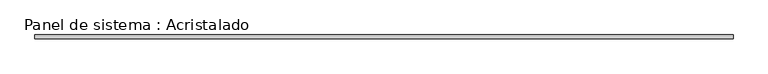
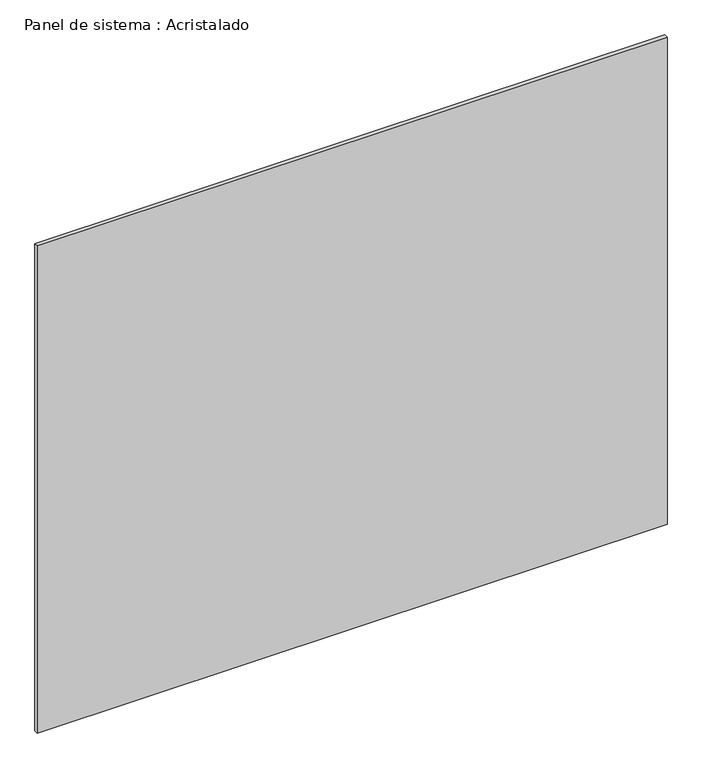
"""IFC4 building model written with IfcOpenShell, lengths in millimetres: plate geometry, Panel de sistema : Acristalado."""

from ifc_helpers import new_model, si_unit, origin, origin_with_axes, place, context, project, spatial, polyline, outline, extrude, source, transform, mapped, element, save


def panel_de_sistema_acristalado_2d9a16bb(model_context):
    return source(origin(), model_context, "Body", "SweptSolid", [
        extrude(outline(polyline([(1723.7068966, -10.0), (-1723.7068966, -10.0), (-1723.7068966, 10.0), (1723.7068966, 10.0), (1723.7068966, -10.0)])), origin_with_axes(), (0.0, 0.0, 1.0), 2820.0),
    ])


if __name__ == "__main__":
    model = new_model("IFC4")
    model_context = context("Model", 3, world=origin())
    ifc_project = project(units=[si_unit("LENGTHUNIT", "METRE", prefix="MILLI")], contexts=[model_context])
    site = spatial("IfcSite", under=ifc_project)
    building = spatial("IfcBuilding", under=site)
    placement = place(None, origin())
    panel_de_sistema_acristalado_shape = panel_de_sistema_acristalado_2d9a16bb(model_context)
    element("IfcPlate", 1, ObjectType="Panel de sistema : Acristalado", at=placement, inside=building, context=model_context, shape_type="MappedRepresentation", body=[
        mapped(panel_de_sistema_acristalado_shape, transform((0.0, 0.0, 0.0), x_axis=(1.0, 0.0, 0.0), y_axis=(0.0, 1.0, 0.0), z_axis=(0.0, 0.0, 1.0))),
    ])
    save(model, "model.ifc")
